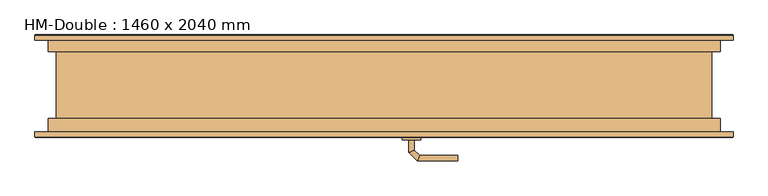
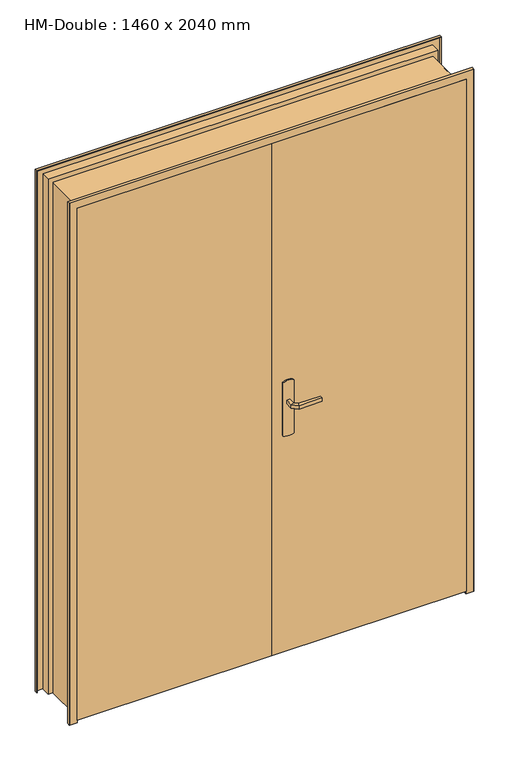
"""IFC4 building model written with IfcOpenShell, lengths in millimetres: door geometry, HM-Double : 1460 x 2040 mm."""

from ifc_helpers import new_model, si_unit, point, frame, frame_2d, origin, place, context, project, spatial, polyline, circle_curve, ellipse_curve, trimmed, segment, composite_curve, outline, extrude, faceted_brep, source, transform, mapped, element, save
from ifc_brep_helpers import plane_surface, cylinder_surface, advanced_brep


def hm_double_1460_x_2040_mm_87b080d4(model_context):
    return source(origin(), model_context, "Body", "SolidModel", [
        extrude(outline(polyline([(0.0, -72.0), (0.0, -112.0), (-730.0, -112.0), (-730.0, -72.0), (0.0, -72.0)])), frame((0.0, 0.0, 10.0), z_axis=(0.0, 0.0, 1.0), x_axis=(1.0, 0.0, 0.0)), (0.0, 0.0, 1.0), 2030.0),
        advanced_brep(
        [(66.0, -67.0, 993.0), (66.0, -67.0, 1007.0), (54.0, -67.0, 1007.0), (54.0, -67.0, 993.0), (66.0, -44.5147955, 993.0), (66.0, -44.5147955, 1007.0), (54.0, -39.5442327, 1007.0), (54.0, -39.5442327, 993.0), (77.4852814, -33.0295141, 993.0), (77.4852814, -33.0295141, 1007.0), (72.5147186, -21.0295141, 1007.0), (72.5147186, -21.0295141, 993.0), (160.0457837, -33.0295141, 993.0), (160.0457837, -21.0295141, 993.0), (160.0457837, -21.0295141, 1007.0), (160.0457837, -33.0295141, 1007.0)],
        [
            (0, 1),
            (1, 2, circle_curve(frame((60.0, -67.0, 986.9542278), z_axis=(0.0, -1.0, 0.0), x_axis=(-1.0, 0.0, 0.0)), 20.9244589)),
            (2, 3),
            (3, 0, circle_curve(frame((60.0, -67.0, 1013.0457722), z_axis=(0.0, -1.0, 0.0), x_axis=(-1.0, 0.0, 0.0)), 20.9244589)),
            (0, 4),
            (4, 5),
            (5, 1),
            (5, 6, ellipse_curve(frame((60.0, -42.0295141, 986.9542278), z_axis=(-0.38268343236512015, -0.9238795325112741, 0.0), x_axis=(0.9238795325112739, -0.38268343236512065, 0.0)), 22.6484711, 20.9244589)),
            (6, 2),
            (6, 7),
            (7, 3),
            (7, 4, ellipse_curve(frame((60.0, -42.0295141, 1013.0457722), z_axis=(-0.38268343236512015, -0.9238795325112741, 0.0), x_axis=(0.9238795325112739, -0.38268343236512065, 0.0)), 22.6484711, 20.9244589)),
            (4, 8),
            (8, 9),
            (9, 5),
            (9, 10, ellipse_curve(frame((75.0, -27.0295141, 986.9542278), z_axis=(-0.9238795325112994, -0.38268343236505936, 0.0), x_axis=(0.3826834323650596, -0.9238795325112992, 0.0)), 22.6484711, 20.9244589)),
            (10, 6),
            (10, 11),
            (11, 7),
            (11, 8, ellipse_curve(frame((75.0, -27.0295141, 1013.0457722), z_axis=(-0.9238795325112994, -0.38268343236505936, 0.0), x_axis=(0.3826834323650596, -0.9238795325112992, 0.0)), 22.6484711, 20.9244589)),
            (12, 13, circle_curve(frame((160.0457837, -27.0295141, 1013.0457722), z_axis=(1.0, 0.0, 0.0), x_axis=(0.0, 1.0, 0.0)), 20.9244589)),
            (13, 14),
            (14, 15, circle_curve(frame((160.0457837, -27.0295141, 986.9542278), z_axis=(1.0, 0.0, 0.0), x_axis=(0.0, 1.0, 0.0)), 20.9244589)),
            (15, 12),
            (8, 12),
            (15, 9),
            (14, 10),
            (13, 11),
        ],
        [
            plane_surface(frame((50.7804555, -67.0, 1000.0), z_axis=(0.0, -1.0, 0.0), x_axis=(0.0, 0.0, 1.0))),
            plane_surface(frame((66.0, -67.0, 993.0), z_axis=(1.0, 0.0, 0.0), x_axis=(0.0, 1.0, 0.0))),
            cylinder_surface(frame((60.0, -67.0, 986.9542278), z_axis=(0.0, -1.0, 0.0), x_axis=(-1.0, 0.0, 0.0)), 20.9244589),
            plane_surface(frame((54.0, -67.0, 1007.0), z_axis=(-1.0, 0.0, 0.0), x_axis=(0.0, 1.0, 0.0))),
            cylinder_surface(frame((60.0, -67.0, 1013.0457722), z_axis=(0.0, -1.0, 0.0), x_axis=(-1.0, 0.0, 0.0)), 20.9244589),
            plane_surface(frame((66.0, -44.5147955, 993.0), z_axis=(0.7071067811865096, -0.7071067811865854, 0.0), x_axis=(0.7071067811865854, 0.7071067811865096, 0.0))),
            cylinder_surface(frame((60.0, -42.0295141, 986.9542278), z_axis=(-0.7071067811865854, -0.7071067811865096, 0.0), x_axis=(-0.7071067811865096, 0.7071067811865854, 0.0)), 20.9244589),
            plane_surface(frame((54.0, -39.5442327, 1007.0), z_axis=(-0.7071067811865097, 0.7071067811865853, 0.0), x_axis=(0.7071067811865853, 0.7071067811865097, 0.0))),
            cylinder_surface(frame((60.0, -42.0295141, 1013.0457722), z_axis=(-0.7071067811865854, -0.7071067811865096, 0.0), x_axis=(-0.7071067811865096, 0.7071067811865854, 0.0)), 20.9244589),
            plane_surface(frame((160.0457837, -27.0295141, 990.7804555), z_axis=(1.0, 0.0, 0.0), x_axis=(0.0, 1.0, 0.0))),
            plane_surface(frame((77.4852814, -33.0295141, 993.0), z_axis=(0.0, -1.0, 0.0), x_axis=(1.0, 0.0, 0.0))),
            cylinder_surface(frame((75.0, -27.0295141, 986.9542278), z_axis=(-1.0, 0.0, 0.0), x_axis=(0.0, 1.0, 0.0)), 20.9244589),
            plane_surface(frame((72.5147186, -21.0295141, 1007.0), z_axis=(0.0, 1.0, 0.0), x_axis=(1.0, 0.0, 0.0))),
            cylinder_surface(frame((75.0, -27.0295141, 1013.0457722), z_axis=(-1.0, 0.0, 0.0), x_axis=(0.0, 1.0, 0.0)), 20.9244589),
        ],
        [
            (0, [[1, 2, 3, 4]]),
            (1, [[-1, 5, 6, 7]]),
            (2, [[-2, -7, 8, 9]]),
            (3, [[-3, -9, 10, 11]]),
            (4, [[-4, -11, 12, -5]]),
            (5, [[-6, 13, 14, 15]]),
            (6, [[-8, -15, 16, 17]]),
            (7, [[-10, -17, 18, 19]]),
            (8, [[-12, -19, 20, -13]]),
            (9, [[21, 22, 23, 24]]),
            (10, [[-14, 25, -24, 26]]),
            (11, [[-16, -26, -23, 27]]),
            (12, [[-18, -27, -22, 28]]),
            (13, [[-20, -28, -21, -25]]),
        ],
    ),
        advanced_brep(
        [(54.0, -117.0, 1007.0), (66.0, -117.0, 1007.0), (66.0, -117.0, 993.0), (54.0, -117.0, 993.0), (54.0, -144.6509507, 1007.0), (66.0, -139.680388, 1007.0), (66.0, -139.680388, 993.0), (54.0, -144.6509507, 993.0), (72.37721, -163.0281607, 1007.0), (77.3477727, -151.0281607, 1007.0), (77.3477727, -151.0281607, 993.0), (72.37721, -163.0281607, 993.0), (160.0186406, -163.0281607, 1007.0), (160.0186406, -163.0281607, 993.0), (160.0186406, -151.0281607, 993.0), (160.0186406, -151.0281607, 1007.0)],
        [
            (0, 1, circle_curve(frame((60.0, -117.0, 986.9542278), z_axis=(0.0, 1.0, 0.0), x_axis=(1.0, 0.0, 0.0)), 20.9244589)),
            (1, 2),
            (2, 3, circle_curve(frame((60.0, -117.0, 1013.0457722), z_axis=(0.0, 1.0, 0.0), x_axis=(1.0, 0.0, 0.0)), 20.9244589)),
            (3, 0),
            (0, 4),
            (4, 5, ellipse_curve(frame((60.0, -142.1656693, 986.9542278), z_axis=(-0.38268343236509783, 0.9238795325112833, 0.0), x_axis=(0.9238795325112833, 0.3826834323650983, 0.0)), 22.6484711, 20.9244589)),
            (5, 1),
            (5, 6),
            (6, 2),
            (6, 7, ellipse_curve(frame((60.0, -142.1656693, 1013.0457722), z_axis=(-0.38268343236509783, 0.9238795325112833, 0.0), x_axis=(0.9238795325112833, 0.3826834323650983, 0.0)), 22.6484711, 20.9244589)),
            (7, 3),
            (7, 4),
            (4, 8),
            (8, 9, ellipse_curve(frame((74.8624914, -157.0281607, 986.9542278), z_axis=(-0.9238795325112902, 0.3826834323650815, 0.0), x_axis=(0.3826834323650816, 0.9238795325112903, 0.0)), 22.6484711, 20.9244589)),
            (9, 5),
            (9, 10),
            (10, 6),
            (10, 11, ellipse_curve(frame((74.8624914, -157.0281607, 1013.0457722), z_axis=(-0.9238795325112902, 0.3826834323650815, 0.0), x_axis=(0.3826834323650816, 0.9238795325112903, 0.0)), 22.6484711, 20.9244589)),
            (11, 7),
            (11, 8),
            (12, 13),
            (13, 14, circle_curve(frame((160.0186406, -157.0281607, 1013.0457722), z_axis=(1.0, 0.0, 0.0), x_axis=(0.0, 1.0, 0.0)), 20.9244589)),
            (14, 15),
            (15, 12, circle_curve(frame((160.0186406, -157.0281607, 986.9542278), z_axis=(1.0, 0.0, 0.0), x_axis=(0.0, 1.0, 0.0)), 20.9244589)),
            (8, 12),
            (15, 9),
            (14, 10),
            (13, 11),
        ],
        [
            plane_surface(frame((50.7804555, -117.0, 1000.0), z_axis=(0.0, 1.0, 0.0), x_axis=(0.0, 0.0, -1.0))),
            cylinder_surface(frame((60.0, -117.0, 986.9542278), z_axis=(0.0, 1.0, 0.0), x_axis=(1.0, 0.0, 0.0)), 20.9244589),
            plane_surface(frame((66.0, -117.0, 1007.0), z_axis=(1.0, 0.0, 0.0), x_axis=(0.0, -1.0, 0.0))),
            cylinder_surface(frame((60.0, -117.0, 1013.0457722), z_axis=(0.0, 1.0, 0.0), x_axis=(1.0, 0.0, 0.0)), 20.9244589),
            plane_surface(frame((54.0, -117.0, 993.0), z_axis=(-1.0, 0.0, 0.0), x_axis=(0.0, -1.0, 0.0))),
            cylinder_surface(frame((60.0, -142.1656693, 986.9542278), z_axis=(-0.7071067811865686, 0.7071067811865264, 0.0), x_axis=(0.7071067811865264, 0.7071067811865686, 0.0)), 20.9244589),
            plane_surface(frame((66.0, -139.680388, 1007.0), z_axis=(0.7071067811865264, 0.7071067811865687, 0.0), x_axis=(0.7071067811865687, -0.7071067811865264, 0.0))),
            cylinder_surface(frame((60.0, -142.1656693, 1013.0457722), z_axis=(-0.7071067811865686, 0.7071067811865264, 0.0), x_axis=(0.7071067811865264, 0.7071067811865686, 0.0)), 20.9244589),
            plane_surface(frame((54.0, -144.6509507, 993.0), z_axis=(-0.7071067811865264, -0.7071067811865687, 0.0), x_axis=(0.7071067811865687, -0.7071067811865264, 0.0))),
            plane_surface(frame((160.0186406, -157.0281607, 990.7804555), z_axis=(1.0, 0.0, 0.0), x_axis=(0.0, 1.0, 0.0))),
            cylinder_surface(frame((74.8624914, -157.0281607, 986.9542278), z_axis=(-1.0, 0.0, 0.0), x_axis=(0.0, 1.0, 0.0)), 20.9244589),
            plane_surface(frame((77.3477727, -151.0281607, 1007.0), z_axis=(0.0, 1.0, 0.0), x_axis=(1.0, 0.0, 0.0))),
            cylinder_surface(frame((74.8624914, -157.0281607, 1013.0457722), z_axis=(-1.0, 0.0, 0.0), x_axis=(0.0, 1.0, 0.0)), 20.9244589),
            plane_surface(frame((72.37721, -163.0281607, 993.0), z_axis=(0.0, -1.0, 0.0), x_axis=(1.0, 0.0, 0.0))),
        ],
        [
            (0, [[1, 2, 3, 4]]),
            (1, [[-1, 5, 6, 7]]),
            (2, [[-2, -7, 8, 9]]),
            (3, [[-3, -9, 10, 11]]),
            (4, [[-4, -11, 12, -5]]),
            (5, [[-6, 13, 14, 15]]),
            (6, [[-8, -15, 16, 17]]),
            (7, [[-10, -17, 18, 19]]),
            (8, [[-12, -19, 20, -13]]),
            (9, [[21, 22, 23, 24]]),
            (10, [[-14, 25, -24, 26]]),
            (11, [[-16, -26, -23, 27]]),
            (12, [[-18, -27, -22, 28]]),
            (13, [[-20, -28, -21, -25]]),
        ],
    ),
        extrude(outline(composite_curve([segment(trimmed(circle_curve(frame_2d((1045.3589838, 60.0)), 40.0), [point((1080.0, 80.0))], [point((1080.0, 40.0))], False, "CARTESIAN"), True, "CONTINUOUS"), segment(polyline([(1080.0, 40.0), (870.0, 40.0)]), True, "CONTINUOUS"), segment(trimmed(circle_curve(frame_2d((904.6410162, 60.0)), 40.0), [point((870.0, 40.0))], [point((870.0, 80.0))], False, "CARTESIAN"), True, "CONTINUOUS"), segment(polyline([(870.0, 80.0), (1080.0, 80.0)]), True, "CONTINUOUS")], self_intersect=False)), frame((0.0, -72.0, 0.0), z_axis=(0.0, 1.0, 0.0), x_axis=(0.0, 0.0, 1.0)), (0.0, 0.0, 1.0), 5.0),
        extrude(outline(composite_curve([segment(trimmed(circle_curve(frame_2d((904.6410162, 60.0)), 40.0), [point((870.0, 40.0))], [point((870.0, 80.0))], False, "CARTESIAN"), True, "CONTINUOUS"), segment(polyline([(870.0, 80.0), (1080.0, 80.0)]), True, "CONTINUOUS"), segment(trimmed(circle_curve(frame_2d((1045.3589838, 60.0)), 40.0), [point((1080.0, 80.0))], [point((1080.0, 40.0))], False, "CARTESIAN"), True, "CONTINUOUS"), segment(polyline([(1080.0, 40.0), (870.0, 40.0)]), True, "CONTINUOUS")], self_intersect=False)), frame((0.0, -117.0, 0.0), z_axis=(0.0, 1.0, 0.0), x_axis=(0.0, 0.0, 1.0)), (0.0, 0.0, 1.0), 5.0),
        extrude(outline(polyline([(0.0, -72.0), (730.0, -72.0), (730.0, -112.0), (0.0, -112.0), (0.0, -72.0)])), frame((0.0, 0.0, 10.0), z_axis=(0.0, 0.0, 1.0), x_axis=(1.0, 0.0, 0.0)), (0.0, 0.0, 1.0), 2030.0),
        faceted_brep([(760.0, 100.0, 0.0), (758.5, 100.0, 0.0), (758.5, 110.5, 0.0), (731.5, 110.5, 0.0), (731.5, 75.5, 0.0), (713.5, 75.5, 0.0), (713.5, -70.5, 0.0), (731.5, -70.5, 0.0), (731.5, -110.5, 0.0), (758.5, -110.5, 0.0), (758.5, -100.0, 0.0), (760.0, -100.0, 0.0), (760.0, -111.2, 0.0), (759.2, -112.0, 0.0), (730.8, -112.0, 0.0), (730.0, -111.2, 0.0), (730.0, -72.0, 0.0), (712.8, -72.0, 0.0), (712.0, -71.2, 0.0), (712.0, 76.2, 0.0), (712.8, 77.0, 0.0), (730.0, 77.0, 0.0), (730.0, 111.2, 0.0), (730.8, 112.0, 0.0), (759.2, 112.0, 0.0), (760.0, 111.2, 0.0), (760.0, 100.0, 2070.0), (-760.0, 100.0, 2070.0), (-760.0, 100.0, 0.0), (-758.5, 100.0, 0.0), (-758.5, 100.0, 2068.5), (758.5, 100.0, 2068.5), (758.5, 110.5, 2068.5), (-758.5, 110.5, 2068.5), (-758.5, 110.5, 0.0), (-731.5, 110.5, 0.0), (-731.5, 110.5, 2041.5), (731.5, 110.5, 2041.5), (731.5, 75.5, 2041.5), (-731.5, 75.5, 2041.5), (-731.5, 75.5, 0.0), (-713.5, 75.5, 0.0), (-713.5, 75.5, 2023.5), (713.5, 75.5, 2023.5), (713.5, -70.5, 2023.5), (-713.5, -70.5, 2023.5), (-713.5, -70.5, 0.0), (-731.5, -70.5, 0.0), (-731.5, -70.5, 2041.5), (731.5, -70.5, 2041.5), (731.5, -110.5, 2041.5), (-731.5, -110.5, 2041.5), (-731.5, -110.5, 0.0), (-758.5, -110.5, 0.0), (-758.5, -110.5, 2068.5), (758.5, -110.5, 2068.5), (758.5, -100.0, 2068.5), (-758.5, -100.0, 2068.5), (-758.5, -100.0, 0.0), (-760.0, -100.0, 0.0), (-760.0, -100.0, 2070.0), (760.0, -100.0, 2070.0), (760.0, -111.2, 2070.0), (759.2, -112.0, 2069.2), (-759.2, -112.0, 2069.2), (-759.2, -112.0, 0.0), (-730.8, -112.0, 0.0), (-730.8, -112.0, 2040.8), (730.8, -112.0, 2040.8), (730.0, -111.2, 2040.0), (730.0, -72.0, 2040.0), (-730.0, -72.0, 2040.0), (-730.0, -72.0, 0.0), (-712.8, -72.0, 0.0), (-712.8, -72.0, 2022.8), (712.8, -72.0, 2022.8), (712.0, -71.2, 2022.0), (712.0, 76.2, 2022.0), (712.8, 77.0, 2022.8), (-712.8, 77.0, 2022.8), (-712.8, 77.0, 0.0), (-730.0, 77.0, 0.0), (-730.0, 77.0, 2040.0), (730.0, 77.0, 2040.0), (730.0, 111.2, 2040.0), (730.8, 112.0, 2040.8), (-730.8, 112.0, 2040.8), (-730.8, 112.0, 0.0), (-759.2, 112.0, 0.0), (-759.2, 112.0, 2069.2), (759.2, 112.0, 2069.2), (760.0, 111.2, 2070.0), (-760.0, 111.2, 2070.0), (-760.0, 111.2, 0.0), (-730.0, 111.2, 0.0), (-712.0, 76.2, 0.0), (-712.0, -71.2, 0.0), (-730.0, -111.2, 0.0), (-760.0, -111.2, 0.0), (-760.0, -111.2, 2070.0), (-730.0, -111.2, 2040.0), (-712.0, -71.2, 2022.0), (-712.0, 76.2, 2022.0), (-730.0, 111.2, 2040.0)], [[[0, 1, 2, 3, 4, 5, 6, 7, 8, 9, 10, 11, 12, 13, 14, 15, 16, 17, 18, 19, 20, 21, 22, 23, 24, 25]], [[1, 0, 26, 27, 28, 29, 30, 31]], [[2, 1, 31, 32]], [[3, 2, 32, 33, 34, 35, 36, 37]], [[4, 3, 37, 38]], [[5, 4, 38, 39, 40, 41, 42, 43]], [[6, 5, 43, 44]], [[7, 6, 44, 45, 46, 47, 48, 49]], [[8, 7, 49, 50]], [[9, 8, 50, 51, 52, 53, 54, 55]], [[10, 9, 55, 56]], [[11, 10, 56, 57, 58, 59, 60, 61]], [[12, 11, 61, 62]], [[13, 12, 62, 63]], [[14, 13, 63, 64, 65, 66, 67, 68]], [[15, 14, 68, 69]], [[16, 15, 69, 70]], [[17, 16, 70, 71, 72, 73, 74, 75]], [[18, 17, 75, 76]], [[19, 18, 76, 77]], [[20, 19, 77, 78]], [[21, 20, 78, 79, 80, 81, 82, 83]], [[22, 21, 83, 84]], [[23, 22, 84, 85]], [[24, 23, 85, 86, 87, 88, 89, 90]], [[25, 24, 90, 91]], [[0, 25, 91, 26]], [[27, 92, 93, 28]], [[28, 93, 88, 87, 94, 81, 80, 95, 96, 73, 72, 97, 66, 65, 98, 59, 58, 53, 52, 47, 46, 41, 40, 35, 34, 29]], [[33, 30, 29, 34]], [[39, 36, 35, 40]], [[45, 42, 41, 46]], [[51, 48, 47, 52]], [[57, 54, 53, 58]], [[99, 60, 59, 98]], [[64, 99, 98, 65]], [[100, 67, 66, 97]], [[71, 100, 97, 72]], [[101, 74, 73, 96]], [[79, 102, 95, 80]], [[103, 82, 81, 94]], [[86, 103, 94, 87]], [[92, 89, 88, 93]], [[102, 101, 96, 95]], [[32, 31, 30, 33]], [[38, 37, 36, 39]], [[44, 43, 42, 45]], [[50, 49, 48, 51]], [[56, 55, 54, 57]], [[62, 61, 60, 99]], [[63, 62, 99, 64]], [[69, 68, 67, 100]], [[70, 69, 100, 71]], [[76, 75, 74, 101]], [[77, 76, 101, 102]], [[78, 77, 102, 79]], [[84, 83, 82, 103]], [[85, 84, 103, 86]], [[91, 90, 89, 92]], [[26, 91, 92, 27]]]),
    ])


if __name__ == "__main__":
    model = new_model("IFC4")
    model_context = context("Model", 3, world=origin())
    ifc_project = project(units=[si_unit("LENGTHUNIT", "METRE", prefix="MILLI")], contexts=[model_context])
    site = spatial("IfcSite", under=ifc_project)
    building = spatial("IfcBuilding", under=site)
    placement = place(None, origin())
    hm_double_1460_x_2040_mm_shape = hm_double_1460_x_2040_mm_87b080d4(model_context)
    element("IfcDoor", 1, ObjectType="HM-Double : 1460 x 2040 mm", at=placement, inside=building, context=model_context, shape_type="MappedRepresentation", body=[
        mapped(hm_double_1460_x_2040_mm_shape, transform((0.0, 0.0, 0.0), x_axis=(1.0, 0.0, 0.0), y_axis=(0.0, 1.0, 0.0), z_axis=(0.0, 0.0, 1.0))),
    ])
    save(model, "model.ifc")
